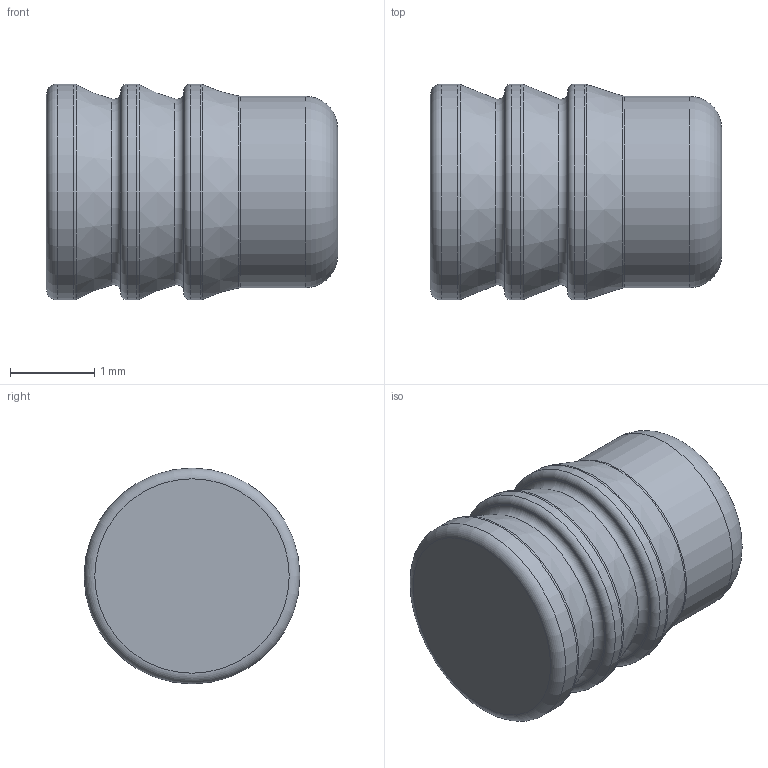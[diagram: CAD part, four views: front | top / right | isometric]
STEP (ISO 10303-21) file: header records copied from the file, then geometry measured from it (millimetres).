
FILE_DESCRIPTION(/* description */ ('LEE ORIFICE, 2.5 mm, REVERSE, GAS'),/* implementation_level */ '2;1');
FILE_NAME(/* name */ '\\ABSOLUTE\SmWork\Vernon\RPGR255XXXXS.stp',/* time_stamp */ '2021-03-23T14:35:28-04:00',/* author */ ('VernonJ'),/* organization */ (''),/* preprocessor_version */ 'ST-DEVELOPER v18',/* originating_system */ 'Autodesk Inventor 2020',/* authorisation */ '');
FILE_SCHEMA (('AUTOMOTIVE_DESIGN { 1 0 10303 214 3 1 1 }'));
Length unit declared in the file: millimetre
Products named in the file (1): RPGR255XXXXS
Bounding box: 3.45 x 2.56 x 2.56 mm (x, y, z)
Volume: 15.1 mm3; surface area: 35.6 mm2
Topology: 1 solids, 1 shells, 21 faces, 71 edges, 54 vertices
Faces by surface type: torus 10, plane 4, cylinder 4, cone 3
Full cylindrical faces by diameter (mm): 2.27 x1, 2.56 x3
Entity records: 890 total; most frequent: DIRECTION 179, CARTESIAN_POINT 147, ORIENTED_EDGE 142, AXIS2_PLACEMENT_3D 86, EDGE_CURVE 71, CIRCLE 64, VERTEX_POINT 54, EDGE_LOOP 23
